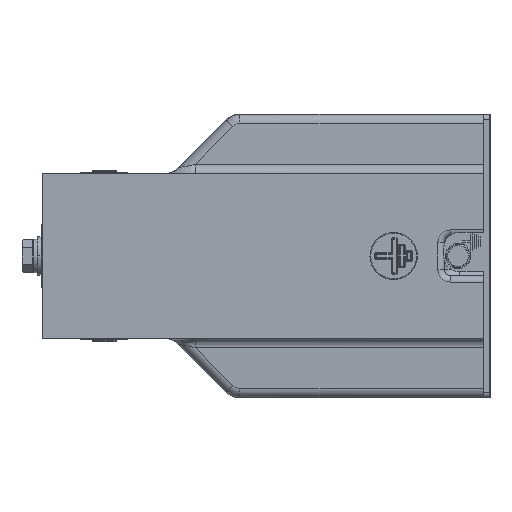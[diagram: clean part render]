
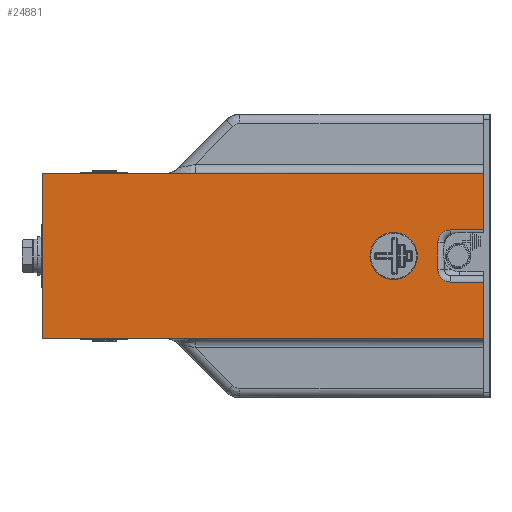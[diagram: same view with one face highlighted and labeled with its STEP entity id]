
A CAD part, left-side view. The second image highlights one B-rep face of the part: STEP entity #24881.
In plain terms, the highlighted planar face has unit normal (-1, 0, 0).
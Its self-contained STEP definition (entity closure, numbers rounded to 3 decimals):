
#543 = EDGE_CURVE ( 'NONE', #19891, #35760, #68577, .T. ) ;
#2109 = DIRECTION ( 'NONE',  ( 0., 0., -1. ) ) ;
#2127 = DIRECTION ( 'NONE',  ( 0., -1., 0. ) ) ;
#3570 = ORIENTED_EDGE ( 'NONE', *, *, #16904, .T. ) ;
#3921 = ORIENTED_EDGE ( 'NONE', *, *, #14134, .T. ) ;
#4880 = ORIENTED_EDGE ( 'NONE', *, *, #47883, .T. ) ;
#5310 = DIRECTION ( 'NONE',  ( 0., 0., -1. ) ) ;
#5541 = EDGE_CURVE ( 'NONE', #89118, #35760, #31779, .T. ) ;
#5781 = LINE ( 'NONE', #51272, #40131 ) ;
#6939 = CARTESIAN_POINT ( 'NONE',  ( -185.177, -81.641, 0. ) ) ;
#7044 = CARTESIAN_POINT ( 'NONE',  ( -185.177, -109.419, 8.433 ) ) ;
#8565 = ORIENTED_EDGE ( 'NONE', *, *, #23621, .T. ) ;
#8772 = AXIS2_PLACEMENT_3D ( 'NONE', #84590, #84901, #18179 ) ;
#9187 = DIRECTION ( 'NONE',  ( 1., 0., 0. ) ) ;
#12081 = VECTOR ( 'NONE', #19577, 1000. ) ;
#13149 = VECTOR ( 'NONE', #27528, 1000. ) ;
#13391 = CARTESIAN_POINT ( 'NONE',  ( -185.177, -138.189, -51.835 ) ) ;
#14134 = EDGE_CURVE ( 'NONE', #19891, #19930, #20130, .T. ) ;
#14345 = VERTEX_POINT ( 'NONE', #88157 ) ;
#15439 = EDGE_CURVE ( 'NONE', #14345, #21809, #49598, .T. ) ;
#16837 = DIRECTION ( 'NONE',  ( 0., 1., 0. ) ) ;
#16904 = EDGE_CURVE ( 'NONE', #19930, #92528, #23165, .T. ) ;
#17461 = CIRCLE ( 'NONE', #91427, 14.881 ) ;
#17641 = VECTOR ( 'NONE', #2127, 1000. ) ;
#17801 = CARTESIAN_POINT ( 'NONE',  ( -185.177, -81.641, -14.881 ) ) ;
#18045 = AXIS2_PLACEMENT_3D ( 'NONE', #63448, #41466, #5310 ) ;
#18179 = DIRECTION ( 'NONE',  ( 0., 0., -1. ) ) ;
#18446 = EDGE_CURVE ( 'NONE', #42214, #92528, #63425, .T. ) ;
#19577 = DIRECTION ( 'NONE',  ( 0., 0., -1. ) ) ;
#19891 = VERTEX_POINT ( 'NONE', #38416 ) ;
#19930 = VERTEX_POINT ( 'NONE', #88794 ) ;
#20130 = LINE ( 'NONE', #13391, #42893 ) ;
#20850 = ORIENTED_EDGE ( 'NONE', *, *, #34901, .F. ) ;
#21312 = CARTESIAN_POINT ( 'NONE',  ( -185.177, -117.355, 16.369 ) ) ;
#21759 = DIRECTION ( 'NONE',  ( 0., 0., -1. ) ) ;
#21809 = VERTEX_POINT ( 'NONE', #58870 ) ;
#23165 = LINE ( 'NONE', #80289, #81418 ) ;
#23327 = ORIENTED_EDGE ( 'NONE', *, *, #68111, .T. ) ;
#23621 = EDGE_CURVE ( 'NONE', #14345, #56793, #73234, .T. ) ;
#24881 = ADVANCED_FACE ( 'NONE', ( #52552, #84501 ), #91327, .T. ) ;
#25460 = ORIENTED_EDGE ( 'NONE', *, *, #83001, .F. ) ;
#27528 = DIRECTION ( 'NONE',  ( 0., 0., 1. ) ) ;
#30951 = EDGE_LOOP ( 'NONE', ( #25460, #23327, #49735, #8565, #20850, #71121, #72494, #3921, #3570, #55414 ) ) ;
#31779 = CIRCLE ( 'NONE', #57870, 7.937 ) ;
#34901 = EDGE_CURVE ( 'NONE', #89118, #56793, #69262, .T. ) ;
#35760 = VERTEX_POINT ( 'NONE', #21312 ) ;
#36234 = VERTEX_POINT ( 'NONE', #72900 ) ;
#36752 = CARTESIAN_POINT ( 'NONE',  ( -185.177, -117.355, 8.433 ) ) ;
#38416 = CARTESIAN_POINT ( 'NONE',  ( -185.177, -138.189, 16.369 ) ) ;
#38918 = CARTESIAN_POINT ( 'NONE',  ( -185.177, -81.641, 0. ) ) ;
#40029 = LINE ( 'NONE', #47135, #41203 ) ;
#40131 = VECTOR ( 'NONE', #58913, 1000. ) ;
#40643 = CARTESIAN_POINT ( 'NONE',  ( -185.177, -109.419, -12.401 ) ) ;
#41203 = VECTOR ( 'NONE', #68539, 1000. ) ;
#41466 = DIRECTION ( 'NONE',  ( -1., 0., 0. ) ) ;
#42214 = VERTEX_POINT ( 'NONE', #86698 ) ;
#42893 = VECTOR ( 'NONE', #57447, 1000. ) ;
#43105 = DIRECTION ( 'NONE',  ( 1., 0., 0. ) ) ;
#46871 = VECTOR ( 'NONE', #16837, 1000. ) ;
#47084 = EDGE_LOOP ( 'NONE', ( #4880, #72377 ) ) ;
#47135 = CARTESIAN_POINT ( 'NONE',  ( -185.177, -138.189, -51.835 ) ) ;
#47883 = EDGE_CURVE ( 'NONE', #48203, #36234, #17461, .T. ) ;
#48203 = VERTEX_POINT ( 'NONE', #17801 ) ;
#49598 = LINE ( 'NONE', #53910, #17641 ) ;
#49735 = ORIENTED_EDGE ( 'NONE', *, *, #15439, .F. ) ;
#50073 = VERTEX_POINT ( 'NONE', #84751 ) ;
#51045 = DIRECTION ( 'NONE',  ( 0., 0., -1. ) ) ;
#51272 = CARTESIAN_POINT ( 'NONE',  ( -185.177, -138.189, -51.835 ) ) ;
#52552 = FACE_BOUND ( 'NONE', #47084, .T. ) ;
#53910 = CARTESIAN_POINT ( 'NONE',  ( -185.177, -138.189, -16.369 ) ) ;
#54797 = EDGE_CURVE ( 'NONE', #36234, #48203, #69194, .T. ) ;
#55414 = ORIENTED_EDGE ( 'NONE', *, *, #18446, .F. ) ;
#56793 = VERTEX_POINT ( 'NONE', #83991 ) ;
#57447 = DIRECTION ( 'NONE',  ( 0., 0., 1. ) ) ;
#57870 = AXIS2_PLACEMENT_3D ( 'NONE', #36752, #43105, #21759 ) ;
#58535 = DIRECTION ( 'NONE',  ( 0., 1., 0. ) ) ;
#58870 = CARTESIAN_POINT ( 'NONE',  ( -185.177, -138.189, -16.369 ) ) ;
#58913 = DIRECTION ( 'NONE',  ( 0., 1., 0. ) ) ;
#61882 = AXIS2_PLACEMENT_3D ( 'NONE', #38918, #9187, #2109 ) ;
#63425 = LINE ( 'NONE', #87200, #13149 ) ;
#63448 = CARTESIAN_POINT ( 'NONE',  ( -185.177, -138.189, -51.835 ) ) ;
#66011 = DIRECTION ( 'NONE',  ( 1., 0., 0. ) ) ;
#68111 = EDGE_CURVE ( 'NONE', #50073, #21809, #40029, .T. ) ;
#68539 = DIRECTION ( 'NONE',  ( 0., 0., 1. ) ) ;
#68577 = LINE ( 'NONE', #81981, #46871 ) ;
#69194 = CIRCLE ( 'NONE', #61882, 14.881 ) ;
#69262 = LINE ( 'NONE', #40643, #12081 ) ;
#71121 = ORIENTED_EDGE ( 'NONE', *, *, #5541, .T. ) ;
#72377 = ORIENTED_EDGE ( 'NONE', *, *, #54797, .T. ) ;
#72494 = ORIENTED_EDGE ( 'NONE', *, *, #543, .F. ) ;
#72900 = CARTESIAN_POINT ( 'NONE',  ( -185.177, -81.641, 14.881 ) ) ;
#73234 = CIRCLE ( 'NONE', #8772, 7.937 ) ;
#78391 = CARTESIAN_POINT ( 'NONE',  ( -185.177, 138.812, 51.835 ) ) ;
#80289 = CARTESIAN_POINT ( 'NONE',  ( -185.177, -138.189, 51.835 ) ) ;
#81418 = VECTOR ( 'NONE', #58535, 1000. ) ;
#81981 = CARTESIAN_POINT ( 'NONE',  ( -185.177, -138.189, 16.369 ) ) ;
#83001 = EDGE_CURVE ( 'NONE', #50073, #42214, #5781, .T. ) ;
#83991 = CARTESIAN_POINT ( 'NONE',  ( -185.177, -109.419, -8.433 ) ) ;
#84501 = FACE_OUTER_BOUND ( 'NONE', #30951, .T. ) ;
#84590 = CARTESIAN_POINT ( 'NONE',  ( -185.177, -117.355, -8.433 ) ) ;
#84751 = CARTESIAN_POINT ( 'NONE',  ( -185.177, -138.189, -51.835 ) ) ;
#84901 = DIRECTION ( 'NONE',  ( 1., 0., 0. ) ) ;
#86698 = CARTESIAN_POINT ( 'NONE',  ( -185.177, 138.812, -51.835 ) ) ;
#87200 = CARTESIAN_POINT ( 'NONE',  ( -185.177, 138.812, 51.835 ) ) ;
#88157 = CARTESIAN_POINT ( 'NONE',  ( -185.177, -117.355, -16.369 ) ) ;
#88794 = CARTESIAN_POINT ( 'NONE',  ( -185.177, -138.189, 51.835 ) ) ;
#89118 = VERTEX_POINT ( 'NONE', #7044 ) ;
#91327 = PLANE ( 'NONE',  #18045 ) ;
#91427 = AXIS2_PLACEMENT_3D ( 'NONE', #6939, #66011, #51045 ) ;
#92528 = VERTEX_POINT ( 'NONE', #78391 ) ;
